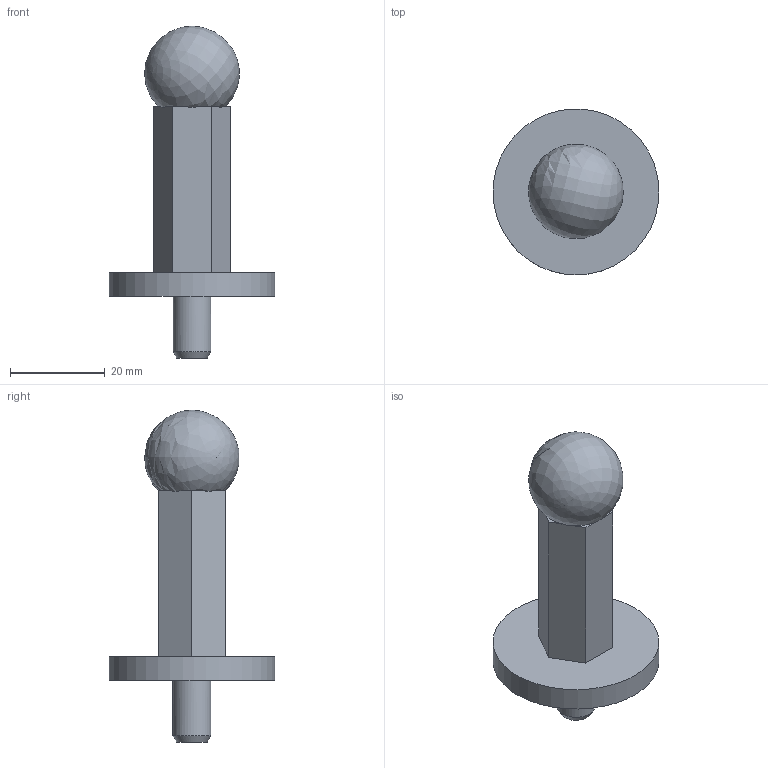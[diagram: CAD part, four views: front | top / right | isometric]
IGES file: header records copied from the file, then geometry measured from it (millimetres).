
Global section: file name: 21.03; native system: Autodesk Inventor 2019; preprocessor: unknown; author: AP.to; date: 20201021.162021; units: millimetre
Bounding box: 34.99 x 34.98 x 70 mm (x, y, z)
Volume: 15195.1 mm3; surface area: 8400.7 mm2
Topology: 5 solids, 5 shells, 47 faces, 119 edges, 80 vertices
Faces by surface type: bspline 47
